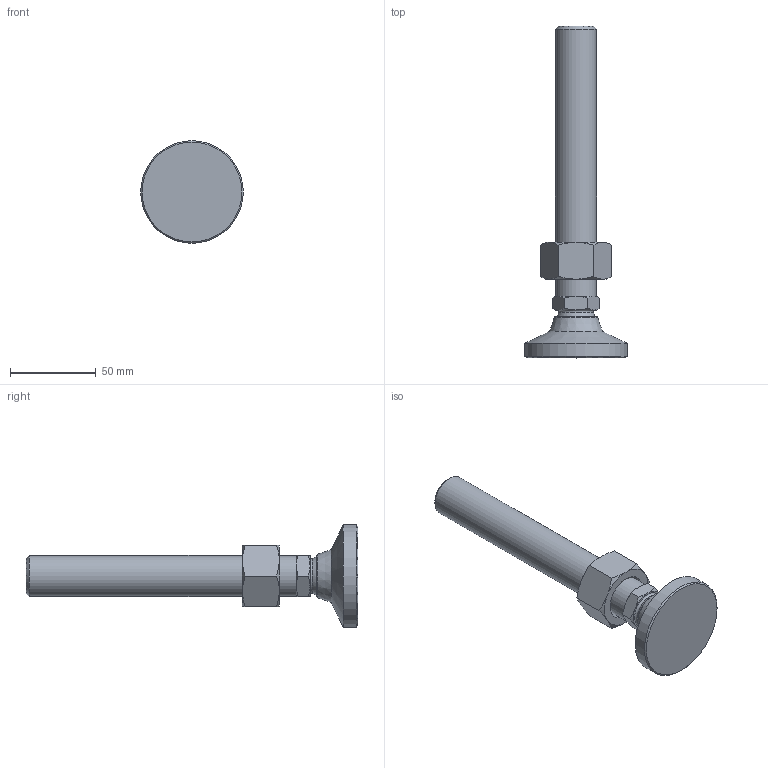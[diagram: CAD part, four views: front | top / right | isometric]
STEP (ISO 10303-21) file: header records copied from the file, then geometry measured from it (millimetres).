
FILE_DESCRIPTION( ( 'STEP AP214' ), ' ' );
FILE_NAME( 'O:/ganter_2015/teil_2/2_5/gn343_2/gn343_2_os/Levelling foot with threaded stud GN 343.2-60-M24-158-OS-(0).stp', '2015-10-26T09:09:09', ( '' ), ( '' ), ' ', 'PARTsolutions', ' ' );
FILE_SCHEMA( ( 'AUTOMOTIVE_DESIGN { 1 0 10303 214 1 1 1 1 }' ) );
Length unit declared in the file: millimetre
Products named in the file (4): Levelling foot with threaded stud GN 343.2-60-M24-158-OS-(0); _Levelling foot with threaded stud GN 343.2-60-M24-158-OS-(0)_foot; _Levelling foot with threaded stud GN 343.2-60-M24-158-OS-(0)_screw; _Stainless Steel-Levelling feet GN 343.2-60-M24-158-OS-(0)_nut
Assembly tree (3 placements, depth 2):
  Levelling foot with threaded stud GN 343.2-60-M24-158-OS-(0)
    _Levelling foot with threaded stud GN 343.2-60-M24-158-OS-(0)_foot
    _Levelling foot with threaded stud GN 343.2-60-M24-158-OS-(0)_screw
    _Stainless Steel-Levelling feet GN 343.2-60-M24-158-OS-(0)_nut
Bounding box: 60 x 194 x 60 mm (x, y, z)
Volume: 134113.5 mm3; surface area: 28537.7 mm2
Topology: 3 solids, 3 shells, 55 faces, 116 edges, 67 vertices
Faces by surface type: cone 30, plane 18, cylinder 3, torus 2, sphere 2
Full cylindrical faces by diameter (mm): 20.752 x1, 24 x1, 60 x1
Entity records: 2078 total; most frequent: CARTESIAN_POINT 535, DIRECTION 208, ORIENTED_EDGE 198, EDGE_CURVE 99, AXIS2_PLACEMENT_3D 98, EDGE_LOOP 70, VERTEX_POINT 65, FACE_OUTER_BOUND 60
